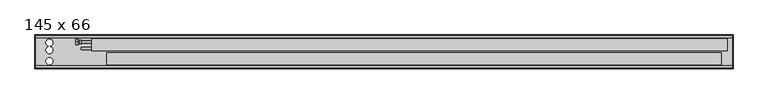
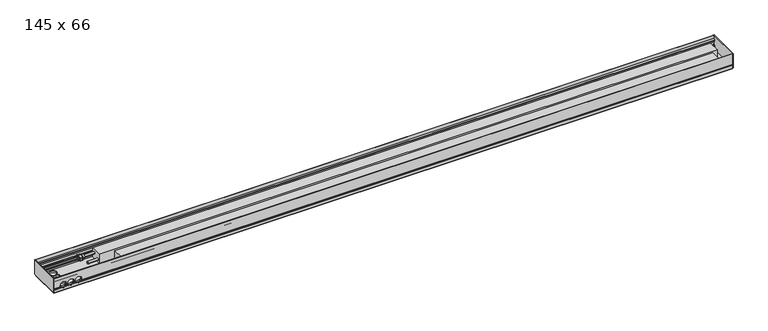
"""IFC4 building model written with IfcOpenShell, lengths in millimetres: proxy geometry, Mohlenhof_Внутрипольный конвектор_QSKM : 145 x 66."""

from ifc_helpers import new_model, si_unit, point, frame, frame_2d, origin, place, context, project, spatial, polyline, circle_curve, ellipse_curve, trimmed, segment, composite_curve, outline, extrude, source, transform, mapped, element, save
from ifc_brep_helpers import plane_surface, cylinder_surface, revolved_surface, advanced_brep


def proxy_145_x_66_a9dd490d(model_context):
    return source(origin(), model_context, "Body", "SolidModel", [
        advanced_brep(
        [(-1313.5, -130.0, -34.5), (-1313.5, -118.0, -34.5), (-1313.5, -142.0, -34.5), (-1301.0, -137.5, -34.5), (-1301.0, -122.5, -34.5), (-1301.0, -130.0, -34.5), (-1308.5, -137.5, -34.5), (-1308.5, -122.5, -34.5)],
        [
            (0, 1),
            (1, 2, circle_curve(frame((-1313.5, -130.0, -34.5), z_axis=(-1.0, 0.0, 0.0), x_axis=(0.0, 1.0, 0.0)), 12.0)),
            (2, 0),
            (2, 1, circle_curve(frame((-1313.5, -130.0, -34.5), z_axis=(-1.0, 0.0, 0.0), x_axis=(0.0, 1.0, 0.0)), 12.0)),
            (3, 4, circle_curve(frame((-1301.0, -130.0, -34.5), z_axis=(1.0, 0.0, 0.0), x_axis=(0.0, 1.0, 0.0)), 7.5)),
            (4, 5),
            (5, 3),
            (4, 3, circle_curve(frame((-1301.0, -130.0, -34.5), z_axis=(1.0, 0.0, 0.0), x_axis=(0.0, 1.0, 0.0)), 7.5)),
            (6, 7, circle_curve(frame((-1308.5, -130.0, -34.5), z_axis=(1.0, 0.0, 0.0), x_axis=(0.0, 1.0, 0.0)), 7.5)),
            (7, 4),
            (3, 6),
            (7, 6, circle_curve(frame((-1308.5, -130.0, -34.5), z_axis=(1.0, 0.0, 0.0), x_axis=(0.0, 1.0, 0.0)), 7.5)),
            (1, 7),
            (6, 2),
        ],
        [
            plane_surface(frame((-1313.5, -130.0, -34.5), z_axis=(-1.0, 0.0, 0.0), x_axis=(0.0, 1.0, 0.0))),
            plane_surface(frame((-1301.0, -130.0, -34.5), z_axis=(1.0, 0.0, 0.0), x_axis=(0.0, 1.0, 0.0))),
            cylinder_surface(frame((-1313.5, -130.0, -34.5), z_axis=(-1.0, 0.0, 0.0), x_axis=(0.0, 1.0, 0.0)), 7.5),
            revolved_surface(polyline([(-1308.5, -122.5, -34.5), (-1313.5, -118.0, -34.5)]), (-1313.5, -130.0, -34.5), (-1.0, 0.0, 0.0)),
        ],
        [
            (0, [[1, 2, 3]]),
            (0, [[-3, 4, -1]]),
            (1, [[5, 6, 7]]),
            (1, [[8, -7, -6]]),
            (2, [[9, 10, -5, 11]]),
            (2, [[12, -11, -8, -10]]),
            (3, [[-2, 13, -9, 14]]),
            (3, [[-4, -14, -12, -13]]),
        ],
    ),
        extrude(outline(polyline([(-130.0, -20.6435935), (-118.0, -27.5717968), (-118.0, -41.4282032), (-130.0, -48.3564065), (-142.0, -41.4282032), (-142.0, -27.5717968), (-130.0, -20.6435935)]), holes=[composite_curve([segment(trimmed(circle_curve(frame_2d((-130.0, -34.5)), 8.5), [point((-121.5, -34.5))], [point((-138.5, -34.5))], True, "CARTESIAN"), True, "CONTINUOUS"), segment(trimmed(circle_curve(frame_2d((-130.0, -34.5)), 8.5), [point((-138.5, -34.5))], [point((-121.5, -34.5))], True, "CARTESIAN"), True, "CONTINUOUS")], self_intersect=False)]), frame((-1324.5, 0.0, 0.0), z_axis=(1.0, 0.0, 0.0), x_axis=(0.0, 1.0, 0.0)), (0.0, 0.0, 1.0), 11.0),
        extrude(outline(composite_curve([segment(trimmed(circle_curve(frame_2d((-1474.5, -223.5)), 4.5), [point((-1479.0, -223.5))], [point((-1470.0, -223.5))], False, "CARTESIAN"), True, "CONTINUOUS"), segment(trimmed(circle_curve(frame_2d((-1474.5, -223.5)), 4.5), [point((-1470.0, -223.5))], [point((-1479.0, -223.5))], False, "CARTESIAN"), True, "CONTINUOUS")], self_intersect=False)), frame((0.0, 0.0, -79.0), z_axis=(0.0, 0.0, 1.0), x_axis=(1.0, 0.0, 0.0)), (0.0, 0.0, 1.0), 7.0),
        extrude(outline(composite_curve([segment(trimmed(circle_curve(frame_2d((-1474.5, -223.5)), 4.0), [point((-1478.5, -223.5))], [point((-1470.5, -223.5))], False, "CARTESIAN"), True, "CONTINUOUS"), segment(trimmed(circle_curve(frame_2d((-1474.5, -223.5)), 4.0), [point((-1470.5, -223.5))], [point((-1478.5, -223.5))], False, "CARTESIAN"), True, "CONTINUOUS")], self_intersect=False)), frame((0.0, 0.0, -72.0), z_axis=(0.0, 0.0, 1.0), x_axis=(1.0, 0.0, 0.0)), (0.0, 0.0, 1.0), 1.5),
        extrude(outline(composite_curve([segment(trimmed(circle_curve(frame_2d((-1474.5, -121.5)), 4.5), [point((-1479.0, -121.5))], [point((-1470.0, -121.5))], False, "CARTESIAN"), True, "CONTINUOUS"), segment(trimmed(circle_curve(frame_2d((-1474.5, -121.5)), 4.5), [point((-1470.0, -121.5))], [point((-1479.0, -121.5))], False, "CARTESIAN"), True, "CONTINUOUS")], self_intersect=False)), frame((0.0, 0.0, -79.0), z_axis=(0.0, 0.0, 1.0), x_axis=(1.0, 0.0, 0.0)), (0.0, 0.0, 1.0), 7.0),
        extrude(outline(composite_curve([segment(trimmed(circle_curve(frame_2d((-1474.5, -121.5)), 4.0), [point((-1478.5, -121.5))], [point((-1470.5, -121.5))], False, "CARTESIAN"), True, "CONTINUOUS"), segment(trimmed(circle_curve(frame_2d((-1474.5, -121.5)), 4.0), [point((-1470.5, -121.5))], [point((-1478.5, -121.5))], False, "CARTESIAN"), True, "CONTINUOUS")], self_intersect=False)), frame((0.0, 0.0, -72.0), z_axis=(0.0, 0.0, 1.0), x_axis=(1.0, 0.0, 0.0)), (0.0, 0.0, 1.0), 1.5),
        extrude(outline(composite_curve([segment(trimmed(circle_curve(frame_2d((1474.5, -223.5)), 4.5), [point((1470.0, -223.5))], [point((1479.0, -223.5))], False, "CARTESIAN"), True, "CONTINUOUS"), segment(trimmed(circle_curve(frame_2d((1474.5, -223.5)), 4.5), [point((1479.0, -223.5))], [point((1470.0, -223.5))], False, "CARTESIAN"), True, "CONTINUOUS")], self_intersect=False)), frame((0.0, 0.0, -79.0), z_axis=(0.0, 0.0, 1.0), x_axis=(1.0, 0.0, 0.0)), (0.0, 0.0, 1.0), 7.0),
        extrude(outline(composite_curve([segment(trimmed(circle_curve(frame_2d((1474.5, -223.5)), 4.0), [point((1470.5, -223.5))], [point((1478.5, -223.5))], False, "CARTESIAN"), True, "CONTINUOUS"), segment(trimmed(circle_curve(frame_2d((1474.5, -223.5)), 4.0), [point((1478.5, -223.5))], [point((1470.5, -223.5))], False, "CARTESIAN"), True, "CONTINUOUS")], self_intersect=False)), frame((0.0, 0.0, -72.0), z_axis=(0.0, 0.0, 1.0), x_axis=(1.0, 0.0, 0.0)), (0.0, 0.0, 1.0), 1.5),
        extrude(outline(composite_curve([segment(trimmed(circle_curve(frame_2d((1474.5, -121.5)), 4.5), [point((1470.0, -121.5))], [point((1479.0, -121.5))], False, "CARTESIAN"), True, "CONTINUOUS"), segment(trimmed(circle_curve(frame_2d((1474.5, -121.5)), 4.5), [point((1479.0, -121.5))], [point((1470.0, -121.5))], False, "CARTESIAN"), True, "CONTINUOUS")], self_intersect=False)), frame((0.0, 0.0, -79.0), z_axis=(0.0, 0.0, 1.0), x_axis=(1.0, 0.0, 0.0)), (0.0, 0.0, 1.0), 7.0),
        extrude(outline(composite_curve([segment(trimmed(circle_curve(frame_2d((1474.5, -121.5)), 4.0), [point((1470.5, -121.5))], [point((1478.5, -121.5))], False, "CARTESIAN"), True, "CONTINUOUS"), segment(trimmed(circle_curve(frame_2d((1474.5, -121.5)), 4.0), [point((1478.5, -121.5))], [point((1470.5, -121.5))], False, "CARTESIAN"), True, "CONTINUOUS")], self_intersect=False)), frame((0.0, 0.0, -72.0), z_axis=(0.0, 0.0, 1.0), x_axis=(1.0, 0.0, 0.0)), (0.0, 0.0, 1.0), 1.5),
        extrude(outline(polyline([(1449.5, -175.87), (1449.5, -227.18), (-1190.5, -227.18), (-1190.5, -175.87), (1449.5, -175.87)])), frame((0.0, 0.0, -62.5), z_axis=(0.0, 0.0, 1.0), x_axis=(1.0, 0.0, 0.0)), (0.0, 0.0, 1.0), 43.62),
        extrude(outline(composite_curve([segment(trimmed(circle_curve(frame_2d((-158.0, -47.5)), 5.0), [point((-163.0, -47.5))], [point((-153.0, -47.5))], False, "CARTESIAN"), True, "CONTINUOUS"), segment(trimmed(circle_curve(frame_2d((-158.0, -47.5)), 5.0), [point((-153.0, -47.5))], [point((-163.0, -47.5))], False, "CARTESIAN"), True, "CONTINUOUS")], self_intersect=False)), frame((-1300.5, 0.0, 0.0), z_axis=(1.0, 0.0, 0.0), x_axis=(0.0, 1.0, 0.0)), (0.0, 0.0, 1.0), 46.0),
        extrude(outline(composite_curve([segment(trimmed(circle_curve(frame_2d((-130.0, -34.5)), 5.0), [point((-135.0, -34.5))], [point((-125.0, -34.5))], False, "CARTESIAN"), True, "CONTINUOUS"), segment(trimmed(circle_curve(frame_2d((-130.0, -34.5)), 5.0), [point((-125.0, -34.5))], [point((-135.0, -34.5))], False, "CARTESIAN"), True, "CONTINUOUS")], self_intersect=False)), frame((-1324.5, 0.0, 0.0), z_axis=(1.0, 0.0, 0.0), x_axis=(0.0, 1.0, 0.0)), (0.0, 0.0, 1.0), 70.0),
        advanced_brep(
        [(1497.5, -245.0, -48.5473602), (1497.5, -243.5, -49.2468216), (1497.5, -242.5, -49.2468216), (1497.5, -242.5, -46.0008038), (1497.5, -240.0, -46.0008038), (1497.5, -240.0, -56.5008038), (1497.5, -242.5, -56.5008038), (1497.5, -242.5, -53.2468216), (1497.5, -243.5, -53.2468216), (1497.5, -245.0, -53.9462831), (1497.5, -245.0, -66.5), (1497.5, -241.0, -66.5), (1497.5, -241.0, -65.2), (1497.5, -243.0, -65.2), (1497.5, -243.0, -62.5), (1497.5, -232.0, -62.5), (1497.5, -232.0, -54.9172677), (1497.5, -233.4172677, -53.5), (1497.5, -237.0, -53.5), (1497.5, -237.0, -45.91), (1497.5, -239.0, -43.91), (1497.5, -239.0, -39.5), (1497.5, -240.0, -39.5), (1497.5, -240.0, -43.5), (1497.5, -242.4956439, -43.5), (1497.5, -242.4956439, -23.0), (1497.5, -240.0, -23.0), (1497.5, -240.0, -27.0), (1497.5, -239.0, -27.0), (1497.5, -239.0, -17.0), (1497.5, -233.3956439, -17.0), (1497.5, -233.3956439, -15.0), (1497.5, -243.4, -15.0), (1497.5, -243.4, 0.0), (1497.5, -245.0, 0.0), (-1497.5, -245.0, -48.5473602), (-1497.5, -245.0, 0.0), (-1497.5, -243.4, 0.0), (-1497.5, -243.4, -15.0), (-1497.5, -233.3956439, -15.0), (-1497.5, -233.3956439, -17.0), (-1497.5, -239.0, -17.0), (-1497.5, -239.0, -27.0), (-1497.5, -240.0, -27.0), (-1497.5, -240.0, -23.0), (-1497.5, -242.4956439, -23.0), (-1497.5, -242.4956439, -43.5), (-1497.5, -240.0, -43.5), (-1497.5, -240.0, -39.5), (-1497.5, -239.0, -39.5), (-1497.5, -239.0, -43.91), (-1497.5, -237.0, -45.91), (-1497.5, -237.0, -53.5), (-1497.5, -233.4172677, -53.5), (-1497.5, -232.0, -54.9172677), (-1497.5, -232.0, -62.5), (-1497.5, -243.0, -62.5), (-1497.5, -243.0, -65.2), (-1497.5, -241.0, -65.2), (-1497.5, -241.0, -66.5), (-1497.5, -245.0, -66.5), (-1497.5, -245.0, -53.9462831), (-1497.5, -243.5, -53.2468216), (-1497.5, -242.5, -53.2468216), (-1497.5, -242.5, -56.5008038), (-1497.5, -240.0, -56.5008038), (-1497.5, -240.0, -46.0008038), (-1497.5, -242.5, -46.0008038), (-1497.5, -242.5, -49.2468216), (-1497.5, -243.5, -49.2468216), (-1378.2585985, -245.0, -48.5473602), (-1378.655283, -243.5, -49.2468216), (-1470.344717, -243.5, -49.2468216), (-1470.7414015, -245.0, -48.5473602), (-1437.7414015, -245.0, -48.5473602), (-1444.2585985, -245.0, -48.5473602), (-1444.655283, -243.5, -49.2468216), (-1437.344717, -243.5, -49.2468216), (-1404.7414015, -245.0, -48.5473602), (-1411.2585985, -245.0, -48.5473602), (-1411.655283, -243.5, -49.2468216), (-1404.344717, -243.5, -49.2468216), (-1378.655283, -242.5, -49.2468216), (-1470.344717, -242.5, -49.2468216), (-1444.655283, -242.5, -49.2468216), (-1437.344717, -242.5, -49.2468216), (-1411.655283, -242.5, -49.2468216), (-1404.344717, -242.5, -49.2468216), (-1377.1911648, -242.5, -46.0008038), (-1471.8088352, -242.5, -46.0008038), (-1443.1911648, -242.5, -46.0008038), (-1438.8088352, -242.5, -46.0008038), (-1410.1911648, -242.5, -46.0008038), (-1405.8088352, -242.5, -46.0008038), (-1377.1911648, -240.0, -46.0008038), (-1471.8088352, -240.0, -46.0008038), (-1443.1911648, -240.0, -46.0008038), (-1438.8088352, -240.0, -46.0008038), (-1410.1911648, -240.0, -46.0008038), (-1405.8088352, -240.0, -46.0008038), (-1466.828032, -242.5, -53.2468216), (-1448.171968, -242.5, -53.2468216), (-1433.828032, -242.5, -53.2468216), (-1415.171968, -242.5, -53.2468216), (-1400.828032, -242.5, -53.2468216), (-1382.171968, -242.5, -53.2468216), (-1382.171968, -243.5, -53.2468216), (-1466.828032, -243.5, -53.2468216), (-1448.171968, -243.5, -53.2468216), (-1433.828032, -243.5, -53.2468216), (-1415.171968, -243.5, -53.2468216), (-1400.828032, -243.5, -53.2468216), (-1383.1280208, -245.0, -53.9462831), (-1465.8719792, -245.0, -53.9462831), (-1449.1280208, -245.0, -53.9462831), (-1432.8719792, -245.0, -53.9462831), (-1416.1280208, -245.0, -53.9462831), (-1399.8719792, -245.0, -53.9462831), (-1464.2064841, -232.0, -54.9172677), (-1450.7935159, -232.0, -54.9172677), (-1431.2064841, -232.0, -54.9172677), (-1417.7935159, -232.0, -54.9172677), (-1398.2064841, -232.0, -54.9172677), (-1384.7935159, -232.0, -54.9172677), (-1382.5, -233.4172677, -53.5), (-1466.5, -233.4172677, -53.5), (-1448.5, -233.4172677, -53.5), (-1433.5, -233.4172677, -53.5), (-1415.5, -233.4172677, -53.5), (-1400.5, -233.4172677, -53.5), (-1382.5, -237.0, -53.5), (-1466.5, -237.0, -53.5), (-1448.5, -237.0, -53.5), (-1433.5, -237.0, -53.5), (-1415.5, -237.0, -53.5), (-1400.5, -237.0, -53.5), (-1377.1629187, -237.0, -45.91), (-1471.8370813, -237.0, -45.91), (-1443.1629187, -237.0, -45.91), (-1438.8370813, -237.0, -45.91), (-1410.1629187, -237.0, -45.91), (-1405.8370813, -237.0, -45.91), (-1376.6948691, -239.0, -43.91), (-1472.3051309, -239.0, -43.91), (-1442.6948691, -239.0, -43.91), (-1439.3051309, -239.0, -43.91), (-1409.6948691, -239.0, -43.91), (-1406.3051309, -239.0, -43.91), (-1376.5, -239.0, -41.5), (-1376.6339313, -239.0, -39.5), (-1472.3660687, -239.0, -39.5), (-1472.5, -239.0, -41.5), (-1442.5, -239.0, -41.5), (-1442.6339313, -239.0, -39.5), (-1439.3660687, -239.0, -39.5), (-1439.5, -239.0, -41.5), (-1409.5, -239.0, -41.5), (-1409.6339313, -239.0, -39.5), (-1406.3660687, -239.0, -39.5), (-1406.5, -239.0, -41.5), (-1376.6339313, -240.0, -39.5), (-1472.3660687, -240.0, -39.5), (-1442.6339313, -240.0, -39.5), (-1439.3660687, -240.0, -39.5), (-1409.6339313, -240.0, -39.5), (-1406.3660687, -240.0, -39.5), (-1376.5, -240.0, -41.5), (-1376.6339313, -240.0, -43.5), (-1472.3660687, -240.0, -43.5), (-1472.5, -240.0, -41.5), (-1442.5, -240.0, -41.5), (-1442.6339313, -240.0, -43.5), (-1439.3660687, -240.0, -43.5), (-1439.5, -240.0, -41.5), (-1409.5, -240.0, -41.5), (-1409.6339313, -240.0, -43.5), (-1406.3660687, -240.0, -43.5), (-1406.5, -240.0, -41.5), (-1376.6339313, -242.4956439, -43.5), (-1472.3660687, -242.4956439, -43.5), (-1442.6339313, -242.4956439, -43.5), (-1439.3660687, -242.4956439, -43.5), (-1409.6339313, -242.4956439, -43.5), (-1406.3660687, -242.4956439, -43.5), (-1376.5, -242.4956439, -41.5), (-1406.5, -242.4956439, -41.5), (-1409.5, -242.4956439, -41.5), (-1439.5, -242.4956439, -41.5), (-1442.5, -242.4956439, -41.5), (-1472.5, -242.4956439, -41.5), (-1461.3405729, -240.0, -27.0), (-1453.6594271, -240.0, -27.0), (-1428.3405729, -240.0, -27.0), (-1420.6594271, -240.0, -27.0), (-1395.3405729, -240.0, -27.0), (-1387.6594271, -240.0, -27.0), (-1387.6594271, -239.0, -27.0), (-1461.3405729, -239.0, -27.0), (-1453.6594271, -239.0, -27.0), (-1428.3405729, -239.0, -27.0), (-1420.6594271, -239.0, -27.0), (-1395.3405729, -239.0, -27.0), (-1472.5, -245.0, -41.5), (-1442.5, -245.0, -41.5), (-1439.5, -245.0, -41.5), (-1409.5, -245.0, -41.5), (-1406.5, -245.0, -41.5), (-1376.5, -245.0, -41.5)],
        [
            (0, 1),
            (1, 2),
            (2, 3),
            (3, 4),
            (4, 5),
            (5, 6),
            (6, 7),
            (7, 8),
            (8, 9),
            (9, 10),
            (10, 11),
            (11, 12),
            (12, 13),
            (13, 14),
            (14, 15),
            (15, 16),
            (16, 17),
            (17, 18),
            (18, 19),
            (19, 20),
            (20, 21),
            (21, 22),
            (22, 23),
            (23, 24),
            (24, 25),
            (25, 26),
            (26, 27),
            (27, 28),
            (28, 29),
            (29, 30),
            (30, 31),
            (31, 32),
            (32, 33),
            (33, 34),
            (34, 0),
            (35, 36),
            (36, 37),
            (37, 38),
            (38, 39),
            (39, 40),
            (40, 41),
            (41, 42),
            (42, 43),
            (43, 44),
            (44, 45),
            (45, 46),
            (46, 47),
            (47, 48),
            (48, 49),
            (49, 50),
            (50, 51),
            (51, 52),
            (52, 53),
            (53, 54),
            (54, 55),
            (55, 56),
            (56, 57),
            (57, 58),
            (58, 59),
            (59, 60),
            (60, 61),
            (61, 62),
            (62, 63),
            (63, 64),
            (64, 65),
            (65, 66),
            (66, 67),
            (67, 68),
            (68, 69),
            (69, 35),
            (0, 70),
            (70, 71, ellipse_curve(frame((-1391.5, -260.1131126, -41.5), z_axis=(0.0, 0.42261826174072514, 0.9063077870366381), x_axis=(0.0, -0.9063077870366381, 0.42261826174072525)), 35.4930237, 15.0)),
            (71, 1),
            (69, 72),
            (72, 73, ellipse_curve(frame((-1457.5, -260.1131126, -41.5), z_axis=(0.0, 0.42261826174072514, 0.9063077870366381), x_axis=(0.0, -0.9063077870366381, 0.42261826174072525)), 35.4930237, 15.0)),
            (73, 35),
            (74, 75),
            (75, 76, ellipse_curve(frame((-1457.5, -260.1131126, -41.5), z_axis=(0.0, 0.42261826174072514, 0.9063077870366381), x_axis=(0.0, -0.9063077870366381, 0.42261826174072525)), 35.4930237, 15.0)),
            (76, 77),
            (77, 74, ellipse_curve(frame((-1424.5, -260.1131126, -41.5), z_axis=(0.0, 0.42261826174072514, 0.9063077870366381), x_axis=(0.0, -0.9063077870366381, 0.42261826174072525)), 35.4930237, 15.0)),
            (78, 79),
            (79, 80, ellipse_curve(frame((-1424.5, -260.1131126, -41.5), z_axis=(0.0, 0.42261826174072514, 0.9063077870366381), x_axis=(0.0, -0.9063077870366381, 0.42261826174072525)), 35.4930237, 15.0)),
            (80, 81),
            (81, 78, ellipse_curve(frame((-1391.5, -260.1131126, -41.5), z_axis=(0.0, 0.42261826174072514, 0.9063077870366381), x_axis=(0.0, -0.9063077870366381, 0.42261826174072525)), 35.4930237, 15.0)),
            (71, 82),
            (82, 2),
            (68, 83),
            (83, 72),
            (76, 84),
            (84, 85),
            (85, 77),
            (80, 86),
            (86, 87),
            (87, 81),
            (82, 88, circle_curve(frame((-1391.5, -242.5, -41.5), z_axis=(0.0, -1.0, 0.0), x_axis=(1.0, 0.0, 0.0)), 15.0)),
            (88, 3),
            (67, 89),
            (89, 83, circle_curve(frame((-1457.5, -242.5, -41.5), z_axis=(0.0, -1.0, 0.0), x_axis=(1.0, 0.0, 0.0)), 15.0)),
            (84, 90, circle_curve(frame((-1457.5, -242.5, -41.5), z_axis=(0.0, -1.0, 0.0), x_axis=(1.0, 0.0, 0.0)), 15.0)),
            (90, 91),
            (91, 85, circle_curve(frame((-1424.5, -242.5, -41.5), z_axis=(0.0, -1.0, 0.0), x_axis=(1.0, 0.0, 0.0)), 15.0)),
            (86, 92, circle_curve(frame((-1424.5, -242.5, -41.5), z_axis=(0.0, -1.0, 0.0), x_axis=(1.0, 0.0, 0.0)), 15.0)),
            (92, 93),
            (93, 87, circle_curve(frame((-1391.5, -242.5, -41.5), z_axis=(0.0, -1.0, 0.0), x_axis=(1.0, 0.0, 0.0)), 15.0)),
            (88, 94),
            (94, 4),
            (66, 95),
            (95, 89),
            (90, 96),
            (96, 97),
            (97, 91),
            (92, 98),
            (98, 99),
            (99, 93),
            (94, 99, circle_curve(frame((-1391.5, -240.0, -41.5), z_axis=(0.0, 1.0, 0.0), x_axis=(1.0, 0.0, 0.0)), 15.0)),
            (98, 97, circle_curve(frame((-1424.5, -240.0, -41.5), z_axis=(0.0, 1.0, 0.0), x_axis=(1.0, 0.0, 0.0)), 15.0)),
            (96, 95, circle_curve(frame((-1457.5, -240.0, -41.5), z_axis=(0.0, 1.0, 0.0), x_axis=(1.0, 0.0, 0.0)), 15.0)),
            (65, 5),
            (64, 6),
            (63, 100),
            (100, 101, circle_curve(frame((-1457.5, -242.5, -41.5), z_axis=(0.0, -1.0, 0.0), x_axis=(1.0, 0.0, 0.0)), 15.0)),
            (101, 102),
            (102, 103, circle_curve(frame((-1424.5, -242.5, -41.5), z_axis=(0.0, -1.0, 0.0), x_axis=(1.0, 0.0, 0.0)), 15.0)),
            (103, 104),
            (104, 105, circle_curve(frame((-1391.5, -242.5, -41.5), z_axis=(0.0, -1.0, 0.0), x_axis=(1.0, 0.0, 0.0)), 15.0)),
            (105, 7),
            (105, 106),
            (106, 8),
            (62, 107),
            (107, 100),
            (101, 108),
            (108, 109),
            (109, 102),
            (103, 110),
            (110, 111),
            (111, 104),
            (106, 112, ellipse_curve(frame((-1391.5, -218.3088597, -41.5), z_axis=(0.0, 0.42261826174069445, -0.9063077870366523), x_axis=(0.0, -0.9063077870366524, -0.42261826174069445)), 35.4930237, 15.0)),
            (112, 9),
            (61, 113),
            (113, 107, ellipse_curve(frame((-1457.5, -218.3088597, -41.5), z_axis=(0.0, 0.42261826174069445, -0.9063077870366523), x_axis=(0.0, -0.9063077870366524, -0.42261826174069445)), 35.4930237, 15.0)),
            (108, 114, ellipse_curve(frame((-1457.5, -218.3088597, -41.5), z_axis=(0.0, 0.42261826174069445, -0.9063077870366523), x_axis=(0.0, -0.9063077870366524, -0.42261826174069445)), 35.4930237, 15.0)),
            (114, 115),
            (115, 109, ellipse_curve(frame((-1424.5, -218.3088597, -41.5), z_axis=(0.0, 0.42261826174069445, -0.9063077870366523), x_axis=(0.0, -0.9063077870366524, -0.42261826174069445)), 35.4930237, 15.0)),
            (110, 116, ellipse_curve(frame((-1424.5, -218.3088597, -41.5), z_axis=(0.0, 0.42261826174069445, -0.9063077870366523), x_axis=(0.0, -0.9063077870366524, -0.42261826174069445)), 35.4930237, 15.0)),
            (116, 117),
            (117, 111, ellipse_curve(frame((-1391.5, -218.3088597, -41.5), z_axis=(0.0, 0.42261826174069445, -0.9063077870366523), x_axis=(0.0, -0.9063077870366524, -0.42261826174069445)), 35.4930237, 15.0)),
            (112, 117, circle_curve(frame((-1391.5, -245.0, -41.5), z_axis=(0.0, 1.0, 0.0), x_axis=(1.0, 0.0, 0.0)), 15.0)),
            (116, 115, circle_curve(frame((-1424.5, -245.0, -41.5), z_axis=(0.0, 1.0, 0.0), x_axis=(1.0, 0.0, 0.0)), 15.0)),
            (114, 113, circle_curve(frame((-1457.5, -245.0, -41.5), z_axis=(0.0, 1.0, 0.0), x_axis=(1.0, 0.0, 0.0)), 15.0)),
            (60, 10),
            (59, 11),
            (58, 12),
            (57, 13),
            (56, 14),
            (55, 15),
            (54, 118),
            (118, 119, circle_curve(frame((-1457.5, -232.0, -41.5), z_axis=(0.0, -1.0, 0.0), x_axis=(1.0, 0.0, 0.0)), 15.0)),
            (119, 120),
            (120, 121, circle_curve(frame((-1424.5, -232.0, -41.5), z_axis=(0.0, -1.0, 0.0), x_axis=(1.0, 0.0, 0.0)), 15.0)),
            (121, 122),
            (122, 123, circle_curve(frame((-1391.5, -232.0, -41.5), z_axis=(0.0, -1.0, 0.0), x_axis=(1.0, 0.0, 0.0)), 15.0)),
            (123, 16),
            (123, 124, ellipse_curve(frame((-1391.5, -245.4172677, -41.5), z_axis=(0.0, -0.7071067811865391, -0.707106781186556), x_axis=(0.0, -0.7071067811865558, 0.7071067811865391)), 21.2132034, 15.0)),
            (124, 17),
            (53, 125),
            (125, 118, ellipse_curve(frame((-1457.5, -245.4172677, -41.5), z_axis=(0.0, -0.7071067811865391, -0.707106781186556), x_axis=(0.0, -0.7071067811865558, 0.7071067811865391)), 21.2132034, 15.0)),
            (119, 126, ellipse_curve(frame((-1457.5, -245.4172677, -41.5), z_axis=(0.0, -0.7071067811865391, -0.707106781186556), x_axis=(0.0, -0.7071067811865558, 0.7071067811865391)), 21.2132034, 15.0)),
            (126, 127),
            (127, 120, ellipse_curve(frame((-1424.5, -245.4172677, -41.5), z_axis=(0.0, -0.7071067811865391, -0.707106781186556), x_axis=(0.0, -0.7071067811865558, 0.7071067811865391)), 21.2132034, 15.0)),
            (121, 128, ellipse_curve(frame((-1424.5, -245.4172677, -41.5), z_axis=(0.0, -0.7071067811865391, -0.707106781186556), x_axis=(0.0, -0.7071067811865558, 0.7071067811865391)), 21.2132034, 15.0)),
            (128, 129),
            (129, 122, ellipse_curve(frame((-1391.5, -245.4172677, -41.5), z_axis=(0.0, -0.7071067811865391, -0.707106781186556), x_axis=(0.0, -0.7071067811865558, 0.7071067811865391)), 21.2132034, 15.0)),
            (124, 130),
            (130, 18),
            (52, 131),
            (131, 125),
            (126, 132),
            (132, 133),
            (133, 127),
            (128, 134),
            (134, 135),
            (135, 129),
            (130, 136, circle_curve(frame((-1391.5, -237.0, -41.5), z_axis=(0.0, -1.0, 0.0), x_axis=(1.0, 0.0, 0.0)), 15.0)),
            (136, 19),
            (51, 137),
            (137, 131, circle_curve(frame((-1457.5, -237.0, -41.5), z_axis=(0.0, -1.0, 0.0), x_axis=(1.0, 0.0, 0.0)), 15.0)),
            (132, 138, circle_curve(frame((-1457.5, -237.0, -41.5), z_axis=(0.0, -1.0, 0.0), x_axis=(1.0, 0.0, 0.0)), 15.0)),
            (138, 139),
            (139, 133, circle_curve(frame((-1424.5, -237.0, -41.5), z_axis=(0.0, -1.0, 0.0), x_axis=(1.0, 0.0, 0.0)), 15.0)),
            (134, 140, circle_curve(frame((-1424.5, -237.0, -41.5), z_axis=(0.0, -1.0, 0.0), x_axis=(1.0, 0.0, 0.0)), 15.0)),
            (140, 141),
            (141, 135, circle_curve(frame((-1391.5, -237.0, -41.5), z_axis=(0.0, -1.0, 0.0), x_axis=(1.0, 0.0, 0.0)), 15.0)),
            (136, 142, ellipse_curve(frame((-1391.5, -241.41, -41.5), z_axis=(0.0, -0.7071067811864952, -0.7071067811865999), x_axis=(0.0, -0.7071067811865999, 0.7071067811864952)), 21.2132034, 15.0)),
            (142, 20),
            (50, 143),
            (143, 137, ellipse_curve(frame((-1457.5, -241.41, -41.5), z_axis=(0.0, -0.7071067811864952, -0.7071067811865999), x_axis=(0.0, -0.7071067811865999, 0.7071067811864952)), 21.2132034, 15.0)),
            (138, 144, ellipse_curve(frame((-1457.5, -241.41, -41.5), z_axis=(0.0, -0.7071067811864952, -0.7071067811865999), x_axis=(0.0, -0.7071067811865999, 0.7071067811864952)), 21.2132034, 15.0)),
            (144, 145),
            (145, 139, ellipse_curve(frame((-1424.5, -241.41, -41.5), z_axis=(0.0, -0.7071067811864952, -0.7071067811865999), x_axis=(0.0, -0.7071067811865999, 0.7071067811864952)), 21.2132034, 15.0)),
            (140, 146, ellipse_curve(frame((-1424.5, -241.41, -41.5), z_axis=(0.0, -0.7071067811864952, -0.7071067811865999), x_axis=(0.0, -0.7071067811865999, 0.7071067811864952)), 21.2132034, 15.0)),
            (146, 147),
            (147, 141, ellipse_curve(frame((-1391.5, -241.41, -41.5), z_axis=(0.0, -0.7071067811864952, -0.7071067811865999), x_axis=(0.0, -0.7071067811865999, 0.7071067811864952)), 21.2132034, 15.0)),
            (142, 148, circle_curve(frame((-1391.5, -239.0, -41.5), z_axis=(0.0, -1.0, 0.0), x_axis=(1.0, 0.0, 0.0)), 15.0)),
            (148, 149, circle_curve(frame((-1391.5, -239.0, -41.5), z_axis=(0.0, -1.0, 0.0), x_axis=(1.0, 0.0, 0.0)), 15.0)),
            (149, 21),
            (49, 150),
            (150, 151, circle_curve(frame((-1457.5, -239.0, -41.5), z_axis=(0.0, -1.0, 0.0), x_axis=(1.0, 0.0, 0.0)), 15.0)),
            (151, 143, circle_curve(frame((-1457.5, -239.0, -41.5), z_axis=(0.0, -1.0, 0.0), x_axis=(1.0, 0.0, 0.0)), 15.0)),
            (144, 152, circle_curve(frame((-1457.5, -239.0, -41.5), z_axis=(0.0, -1.0, 0.0), x_axis=(1.0, 0.0, 0.0)), 15.0)),
            (152, 153, circle_curve(frame((-1457.5, -239.0, -41.5), z_axis=(0.0, -1.0, 0.0), x_axis=(1.0, 0.0, 0.0)), 15.0)),
            (153, 154),
            (154, 155, circle_curve(frame((-1424.5, -239.0, -41.5), z_axis=(0.0, -1.0, 0.0), x_axis=(1.0, 0.0, 0.0)), 15.0)),
            (155, 145, circle_curve(frame((-1424.5, -239.0, -41.5), z_axis=(0.0, -1.0, 0.0), x_axis=(1.0, 0.0, 0.0)), 15.0)),
            (146, 156, circle_curve(frame((-1424.5, -239.0, -41.5), z_axis=(0.0, -1.0, 0.0), x_axis=(1.0, 0.0, 0.0)), 15.0)),
            (156, 157, circle_curve(frame((-1424.5, -239.0, -41.5), z_axis=(0.0, -1.0, 0.0), x_axis=(1.0, 0.0, 0.0)), 15.0)),
            (157, 158),
            (158, 159, circle_curve(frame((-1391.5, -239.0, -41.5), z_axis=(0.0, -1.0, 0.0), x_axis=(1.0, 0.0, 0.0)), 15.0)),
            (159, 147, circle_curve(frame((-1391.5, -239.0, -41.5), z_axis=(0.0, -1.0, 0.0), x_axis=(1.0, 0.0, 0.0)), 15.0)),
            (149, 160),
            (160, 22),
            (48, 161),
            (161, 150),
            (153, 162),
            (162, 163),
            (163, 154),
            (157, 164),
            (164, 165),
            (165, 158),
            (160, 166, circle_curve(frame((-1391.5, -240.0, -41.5), z_axis=(0.0, 1.0, 0.0), x_axis=(1.0, 0.0, 0.0)), 15.0)),
            (166, 167, circle_curve(frame((-1391.5, -240.0, -41.5), z_axis=(0.0, 1.0, 0.0), x_axis=(1.0, 0.0, 0.0)), 15.0)),
            (167, 23),
            (47, 168),
            (168, 169, circle_curve(frame((-1457.5, -240.0, -41.5), z_axis=(0.0, 1.0, 0.0), x_axis=(1.0, 0.0, 0.0)), 15.0)),
            (169, 161, circle_curve(frame((-1457.5, -240.0, -41.5), z_axis=(0.0, 1.0, 0.0), x_axis=(1.0, 0.0, 0.0)), 15.0)),
            (162, 170, circle_curve(frame((-1457.5, -240.0, -41.5), z_axis=(0.0, 1.0, 0.0), x_axis=(1.0, 0.0, 0.0)), 15.0)),
            (170, 171, circle_curve(frame((-1457.5, -240.0, -41.5), z_axis=(0.0, 1.0, 0.0), x_axis=(1.0, 0.0, 0.0)), 15.0)),
            (171, 172),
            (172, 173, circle_curve(frame((-1424.5, -240.0, -41.5), z_axis=(0.0, 1.0, 0.0), x_axis=(1.0, 0.0, 0.0)), 15.0)),
            (173, 163, circle_curve(frame((-1424.5, -240.0, -41.5), z_axis=(0.0, 1.0, 0.0), x_axis=(1.0, 0.0, 0.0)), 15.0)),
            (164, 174, circle_curve(frame((-1424.5, -240.0, -41.5), z_axis=(0.0, 1.0, 0.0), x_axis=(1.0, 0.0, 0.0)), 15.0)),
            (174, 175, circle_curve(frame((-1424.5, -240.0, -41.5), z_axis=(0.0, 1.0, 0.0), x_axis=(1.0, 0.0, 0.0)), 15.0)),
            (175, 176),
            (176, 177, circle_curve(frame((-1391.5, -240.0, -41.5), z_axis=(0.0, 1.0, 0.0), x_axis=(1.0, 0.0, 0.0)), 15.0)),
            (177, 165, circle_curve(frame((-1391.5, -240.0, -41.5), z_axis=(0.0, 1.0, 0.0), x_axis=(1.0, 0.0, 0.0)), 15.0)),
            (167, 178),
            (178, 24),
            (46, 179),
            (179, 168),
            (171, 180),
            (180, 181),
            (181, 172),
            (175, 182),
            (182, 183),
            (183, 176),
            (178, 184, circle_curve(frame((-1391.5, -242.4956439, -41.5), z_axis=(0.0, -1.0, 0.0), x_axis=(1.0, 0.0, 0.0)), 15.0)),
            (184, 185, circle_curve(frame((-1391.5, -242.4956439, -41.5), z_axis=(0.0, -1.0, 0.0), x_axis=(1.0, 0.0, 0.0)), 15.0)),
            (185, 183, circle_curve(frame((-1391.5, -242.4956439, -41.5), z_axis=(0.0, -1.0, 0.0), x_axis=(1.0, 0.0, 0.0)), 15.0)),
            (182, 186, circle_curve(frame((-1424.5, -242.4956439, -41.5), z_axis=(0.0, -1.0, 0.0), x_axis=(1.0, 0.0, 0.0)), 15.0)),
            (186, 187, circle_curve(frame((-1424.5, -242.4956439, -41.5), z_axis=(0.0, -1.0, 0.0), x_axis=(1.0, 0.0, 0.0)), 15.0)),
            (187, 181, circle_curve(frame((-1424.5, -242.4956439, -41.5), z_axis=(0.0, -1.0, 0.0), x_axis=(1.0, 0.0, 0.0)), 15.0)),
            (180, 188, circle_curve(frame((-1457.5, -242.4956439, -41.5), z_axis=(0.0, -1.0, 0.0), x_axis=(1.0, 0.0, 0.0)), 15.0)),
            (188, 189, circle_curve(frame((-1457.5, -242.4956439, -41.5), z_axis=(0.0, -1.0, 0.0), x_axis=(1.0, 0.0, 0.0)), 15.0)),
            (189, 179, circle_curve(frame((-1457.5, -242.4956439, -41.5), z_axis=(0.0, -1.0, 0.0), x_axis=(1.0, 0.0, 0.0)), 15.0)),
            (45, 25),
            (44, 26),
            (43, 190),
            (190, 191, circle_curve(frame((-1457.5, -240.0, -41.5), z_axis=(0.0, 1.0, 0.0), x_axis=(1.0, 0.0, 0.0)), 15.0)),
            (191, 192),
            (192, 193, circle_curve(frame((-1424.5, -240.0, -41.5), z_axis=(0.0, 1.0, 0.0), x_axis=(1.0, 0.0, 0.0)), 15.0)),
            (193, 194),
            (194, 195, circle_curve(frame((-1391.5, -240.0, -41.5), z_axis=(0.0, 1.0, 0.0), x_axis=(1.0, 0.0, 0.0)), 15.0)),
            (195, 27),
            (195, 196),
            (196, 28),
            (42, 197),
            (197, 190),
            (191, 198),
            (198, 199),
            (199, 192),
            (193, 200),
            (200, 201),
            (201, 194),
            (196, 201, circle_curve(frame((-1391.5, -239.0, -41.5), z_axis=(0.0, -1.0, 0.0), x_axis=(1.0, 0.0, 0.0)), 15.0)),
            (200, 199, circle_curve(frame((-1424.5, -239.0, -41.5), z_axis=(0.0, -1.0, 0.0), x_axis=(1.0, 0.0, 0.0)), 15.0)),
            (198, 197, circle_curve(frame((-1457.5, -239.0, -41.5), z_axis=(0.0, -1.0, 0.0), x_axis=(1.0, 0.0, 0.0)), 15.0)),
            (41, 29),
            (40, 30),
            (39, 31),
            (38, 32),
            (37, 33),
            (36, 34),
            (73, 202, circle_curve(frame((-1457.5, -245.0, -41.5), z_axis=(0.0, 1.0, 0.0), x_axis=(1.0, 0.0, 0.0)), 15.0)),
            (202, 203, circle_curve(frame((-1457.5, -245.0, -41.5), z_axis=(0.0, 1.0, 0.0), x_axis=(1.0, 0.0, 0.0)), 15.0)),
            (203, 75, circle_curve(frame((-1457.5, -245.0, -41.5), z_axis=(0.0, 1.0, 0.0), x_axis=(1.0, 0.0, 0.0)), 15.0)),
            (74, 204, circle_curve(frame((-1424.5, -245.0, -41.5), z_axis=(0.0, 1.0, 0.0), x_axis=(1.0, 0.0, 0.0)), 15.0)),
            (204, 205, circle_curve(frame((-1424.5, -245.0, -41.5), z_axis=(0.0, 1.0, 0.0), x_axis=(1.0, 0.0, 0.0)), 15.0)),
            (205, 79, circle_curve(frame((-1424.5, -245.0, -41.5), z_axis=(0.0, 1.0, 0.0), x_axis=(1.0, 0.0, 0.0)), 15.0)),
            (78, 206, circle_curve(frame((-1391.5, -245.0, -41.5), z_axis=(0.0, 1.0, 0.0), x_axis=(1.0, 0.0, 0.0)), 15.0)),
            (206, 207, circle_curve(frame((-1391.5, -245.0, -41.5), z_axis=(0.0, 1.0, 0.0), x_axis=(1.0, 0.0, 0.0)), 15.0)),
            (207, 70, circle_curve(frame((-1391.5, -245.0, -41.5), z_axis=(0.0, 1.0, 0.0), x_axis=(1.0, 0.0, 0.0)), 15.0)),
            (151, 169),
            (189, 202),
            (203, 188),
            (170, 152),
            (155, 173),
            (187, 204),
            (205, 186),
            (174, 156),
            (159, 177),
            (185, 206),
            (207, 184),
            (166, 148),
        ],
        [
            plane_surface(frame((1497.5, -243.0, -62.5), z_axis=(1.0, 0.0, 0.0), x_axis=(0.0, 0.0, 1.0))),
            plane_surface(frame((-1497.5, -243.0, -62.5), z_axis=(-1.0, 0.0, 0.0), x_axis=(0.0, 0.0, 1.0))),
            plane_surface(frame((1497.5, -245.0, -48.5473602), z_axis=(0.0, -0.42261826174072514, -0.9063077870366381), x_axis=(-1.0, 0.0, 0.0))),
            plane_surface(frame((1497.5, -243.5, -49.2468216), z_axis=(0.0, 0.0, -1.0), x_axis=(-1.0, 0.0, 0.0))),
            plane_surface(frame((1497.5, -242.5, -49.2468216), z_axis=(0.0, 1.0, 0.0), x_axis=(-1.0, 0.0, 0.0))),
            plane_surface(frame((1497.5, -242.5, -46.0008038), z_axis=(0.0, 0.0, -1.0), x_axis=(-1.0, 0.0, 0.0))),
            plane_surface(frame((1497.5, -240.0, -46.0008038), z_axis=(0.0, -1.0, 0.0), x_axis=(-1.0, 0.0, 0.0))),
            plane_surface(frame((1497.5, -240.0, -56.5008038), z_axis=(0.0, 0.0, 1.0), x_axis=(-1.0, 0.0, 0.0))),
            plane_surface(frame((1497.5, -242.5, -56.5008038), z_axis=(0.0, 1.0, 0.0), x_axis=(-1.0, 0.0, 0.0))),
            plane_surface(frame((1497.5, -242.5, -53.2468216), z_axis=(0.0, 0.0, 1.0), x_axis=(-1.0, 0.0, 0.0))),
            plane_surface(frame((1497.5, -243.5, -53.2468216), z_axis=(0.0, -0.42261826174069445, 0.9063077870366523), x_axis=(-1.0, 0.0, 0.0))),
            plane_surface(frame((1497.5, -245.0, -53.9462831), z_axis=(0.0, -1.0, 0.0), x_axis=(-1.0, 0.0, 0.0))),
            plane_surface(frame((1497.5, -245.0, -66.5), z_axis=(0.0, 0.0, -1.0), x_axis=(-1.0, 0.0, 0.0))),
            plane_surface(frame((1497.5, -241.0, -66.5), z_axis=(0.0, 1.0, 0.0), x_axis=(-1.0, 0.0, 0.0))),
            plane_surface(frame((1497.5, -241.0, -65.2), z_axis=(0.0, 0.0, 1.0), x_axis=(-1.0, 0.0, 0.0))),
            plane_surface(frame((1497.5, -243.0, -65.2), z_axis=(0.0, 1.0, 0.0), x_axis=(-1.0, 0.0, 0.0))),
            plane_surface(frame((1497.5, -243.0, -62.5), z_axis=(0.0, 0.0, -1.0), x_axis=(-1.0, 0.0, 0.0))),
            plane_surface(frame((1497.5, -232.0, -62.5), z_axis=(0.0, 1.0, 0.0), x_axis=(-1.0, 0.0, 0.0))),
            plane_surface(frame((1497.5, -232.0, -54.9172677), z_axis=(0.0, 0.7071067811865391, 0.707106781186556), x_axis=(-1.0, 0.0, 0.0))),
            plane_surface(frame((1497.5, -233.4172677, -53.5), z_axis=(0.0, 0.0, 1.0), x_axis=(-1.0, 0.0, 0.0))),
            plane_surface(frame((1497.5, -237.0, -53.5), z_axis=(0.0, 1.0, 0.0), x_axis=(-1.0, 0.0, 0.0))),
            plane_surface(frame((1497.5, -237.0, -45.91), z_axis=(0.0, 0.7071067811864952, 0.7071067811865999), x_axis=(-1.0, 0.0, 0.0))),
            plane_surface(frame((1497.5, -239.0, -43.91), z_axis=(0.0, 1.0, 0.0), x_axis=(-1.0, 0.0, 0.0))),
            plane_surface(frame((1497.5, -239.0, -39.5), z_axis=(0.0, 0.0, 1.0), x_axis=(-1.0, 0.0, 0.0))),
            plane_surface(frame((1497.5, -240.0, -39.5), z_axis=(0.0, -1.0, 0.0), x_axis=(-1.0, 0.0, 0.0))),
            plane_surface(frame((1497.5, -240.0, -43.5), z_axis=(0.0, 0.0, 1.0), x_axis=(-1.0, 0.0, 0.0))),
            plane_surface(frame((1497.5, -242.4956439, -43.5), z_axis=(0.0, 1.0, 0.0), x_axis=(-1.0, 0.0, 0.0))),
            plane_surface(frame((1497.5, -242.4956439, -23.0), z_axis=(0.0, 0.0, -1.0), x_axis=(-1.0, 0.0, 0.0))),
            plane_surface(frame((1497.5, -240.0, -23.0), z_axis=(0.0, -1.0, 0.0), x_axis=(-1.0, 0.0, 0.0))),
            plane_surface(frame((1497.5, -240.0, -27.0), z_axis=(0.0, 0.0, -1.0), x_axis=(-1.0, 0.0, 0.0))),
            plane_surface(frame((1497.5, -239.0, -27.0), z_axis=(0.0, 1.0, 0.0), x_axis=(-1.0, 0.0, 0.0))),
            plane_surface(frame((1497.5, -239.0, -17.0), z_axis=(0.0, 0.0, -1.0), x_axis=(-1.0, 0.0, 0.0))),
            plane_surface(frame((1497.5, -233.3956439, -17.0), z_axis=(0.0, 1.0, 0.0), x_axis=(-1.0, 0.0, 0.0))),
            plane_surface(frame((1497.5, -233.3956439, -15.0), z_axis=(0.0, 0.0, 1.0), x_axis=(-1.0, 0.0, 0.0))),
            plane_surface(frame((1497.5, -243.4, -15.0), z_axis=(0.0, 1.0, 0.0), x_axis=(-1.0, 0.0, 0.0))),
            plane_surface(frame((1497.5, -243.4, 0.0), z_axis=(0.0, 0.0, 1.0), x_axis=(-1.0, 0.0, 0.0))),
            plane_surface(frame((1497.5, -245.0, 0.0), z_axis=(0.0, -1.0, 0.0), x_axis=(-1.0, 0.0, 0.0))),
            revolved_surface(polyline([(-1442.5, -250.47646346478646, -41.5), (-1442.5, -186.14125593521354, -41.5)]), (-1457.5, -213.0, -41.5), (0.0, -1.0, 0.0)),
            revolved_surface(polyline([(-1442.5, -292.280716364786, -41.5), (-1442.5, -226.41000002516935, -41.5)]), (-1457.5, -213.0, -41.5), (0.0, -1.0, 0.0)),
            revolved_surface(polyline([(-1442.5, -240.0, -41.5), (-1442.5, -239.0, -41.5)]), (-1457.5, -213.0, -41.5), (0.0, -1.0, 0.0)),
            revolved_surface(polyline([(-1442.5, -245.0, -41.5), (-1442.5, -242.4956439, -41.5)]), (-1457.5, -213.0, -41.5), (0.0, -1.0, 0.0)),
            revolved_surface(polyline([(-1409.5, -250.47646346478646, -41.5), (-1409.5, -186.14125593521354, -41.5)]), (-1424.5, 0.0, -41.5), (0.0, -1.0, 0.0)),
            revolved_surface(polyline([(-1409.5, -292.280716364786, -41.5), (-1409.5, -226.41000002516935, -41.5)]), (-1424.5, 0.0, -41.5), (0.0, -1.0, 0.0)),
            revolved_surface(polyline([(-1409.5, -240.0, -41.5), (-1409.5, -239.0, -41.5)]), (-1424.5, 0.0, -41.5), (0.0, -1.0, 0.0)),
            revolved_surface(polyline([(-1409.5, -245.0, -41.5), (-1409.5, -242.4956439, -41.5)]), (-1424.5, 0.0, -41.5), (0.0, -1.0, 0.0)),
            revolved_surface(polyline([(-1376.5, -250.47646346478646, -41.5), (-1376.5, -186.14125593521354, -41.5)]), (-1391.5, 0.0, -41.5), (0.0, -1.0, 0.0)),
            revolved_surface(polyline([(-1376.5, -292.280716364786, -41.5), (-1376.5, -226.41000002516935, -41.5)]), (-1391.5, 0.0, -41.5), (0.0, -1.0, 0.0)),
            revolved_surface(polyline([(-1376.5, -240.0, -41.5), (-1376.5, -239.0, -41.5)]), (-1391.5, 0.0, -41.5), (0.0, -1.0, 0.0)),
            revolved_surface(polyline([(-1376.5, -245.0, -41.5), (-1376.5, -242.4956439, -41.5)]), (-1391.5, 0.0, -41.5), (0.0, -1.0, 0.0)),
        ],
        [
            (0, [[1, 2, 3, 4, 5, 6, 7, 8, 9, 10, 11, 12, 13, 14, 15, 16, 17, 18, 19, 20, 21, 22, 23, 24, 25, 26, 27, 28, 29, 30, 31, 32, 33, 34, 35]]),
            (1, [[36, 37, 38, 39, 40, 41, 42, 43, 44, 45, 46, 47, 48, 49, 50, 51, 52, 53, 54, 55, 56, 57, 58, 59, 60, 61, 62, 63, 64, 65, 66, 67, 68, 69, 70]]),
            (2, [[-1, 71, 72, 73]]),
            (2, [[-70, 74, 75, 76]]),
            (2, [[77, 78, 79, 80]]),
            (2, [[81, 82, 83, 84]]),
            (3, [[-2, -73, 85, 86]]),
            (3, [[-69, 87, 88, -74]]),
            (3, [[-79, 89, 90, 91]]),
            (3, [[-83, 92, 93, 94]]),
            (4, [[-3, -86, 95, 96]]),
            (4, [[-68, 97, 98, -87]]),
            (4, [[-90, 99, 100, 101]]),
            (4, [[-93, 102, 103, 104]]),
            (5, [[-4, -96, 105, 106]]),
            (5, [[-67, 107, 108, -97]]),
            (5, [[-100, 109, 110, 111]]),
            (5, [[-103, 112, 113, 114]]),
            (6, [[-5, -106, 115, -113, 116, -110, 117, -107, -66, 118]]),
            (7, [[-6, -118, -65, 119]]),
            (8, [[-7, -119, -64, 120, 121, 122, 123, 124, 125, 126]]),
            (9, [[-8, -126, 127, 128]]),
            (9, [[-63, 129, 130, -120]]),
            (9, [[-122, 131, 132, 133]]),
            (9, [[-124, 134, 135, 136]]),
            (10, [[-9, -128, 137, 138]]),
            (10, [[-62, 139, 140, -129]]),
            (10, [[-132, 141, 142, 143]]),
            (10, [[-135, 144, 145, 146]]),
            (11, [[-10, -138, 147, -145, 148, -142, 149, -139, -61, 150]]),
            (12, [[-11, -150, -60, 151]]),
            (13, [[-12, -151, -59, 152]]),
            (14, [[-13, -152, -58, 153]]),
            (15, [[-14, -153, -57, 154]]),
            (16, [[-15, -154, -56, 155]]),
            (17, [[-16, -155, -55, 156, 157, 158, 159, 160, 161, 162]]),
            (18, [[-17, -162, 163, 164]]),
            (18, [[-54, 165, 166, -156]]),
            (18, [[-158, 167, 168, 169]]),
            (18, [[-160, 170, 171, 172]]),
            (19, [[-18, -164, 173, 174]]),
            (19, [[-53, 175, 176, -165]]),
            (19, [[-168, 177, 178, 179]]),
            (19, [[-171, 180, 181, 182]]),
            (20, [[-19, -174, 183, 184]]),
            (20, [[-52, 185, 186, -175]]),
            (20, [[-178, 187, 188, 189]]),
            (20, [[-181, 190, 191, 192]]),
            (21, [[-20, -184, 193, 194]]),
            (21, [[-51, 195, 196, -185]]),
            (21, [[-188, 197, 198, 199]]),
            (21, [[-191, 200, 201, 202]]),
            (22, [[-21, -194, 203, 204, 205]]),
            (22, [[-50, 206, 207, 208, -195]]),
            (22, [[-198, 209, 210, 211, 212, 213]]),
            (22, [[-201, 214, 215, 216, 217, 218]]),
            (23, [[-22, -205, 219, 220]]),
            (23, [[-49, 221, 222, -206]]),
            (23, [[-211, 223, 224, 225]]),
            (23, [[-216, 226, 227, 228]]),
            (24, [[-23, -220, 229, 230, 231]]),
            (24, [[-48, 232, 233, 234, -221]]),
            (24, [[-224, 235, 236, 237, 238, 239]]),
            (24, [[-227, 240, 241, 242, 243, 244]]),
            (25, [[-24, -231, 245, 246]]),
            (25, [[-47, 247, 248, -232]]),
            (25, [[-237, 249, 250, 251]]),
            (25, [[-242, 252, 253, 254]]),
            (26, [[-25, -246, 255, 256, 257, -253, 258, 259, 260, -250, 261, 262, 263, -247, -46, 264]]),
            (27, [[-26, -264, -45, 265]]),
            (28, [[-27, -265, -44, 266, 267, 268, 269, 270, 271, 272]]),
            (29, [[-28, -272, 273, 274]]),
            (29, [[-43, 275, 276, -266]]),
            (29, [[-268, 277, 278, 279]]),
            (29, [[-270, 280, 281, 282]]),
            (30, [[-29, -274, 283, -281, 284, -278, 285, -275, -42, 286]]),
            (31, [[-30, -286, -41, 287]]),
            (32, [[-31, -287, -40, 288]]),
            (33, [[-32, -288, -39, 289]]),
            (34, [[-33, -289, -38, 290]]),
            (35, [[-34, -290, -37, 291]]),
            (36, [[-35, -291, -36, -76, 292, 293, 294, -77, 295, 296, 297, -81, 298, 299, 300, -71]]),
            (37, [[-121, -130, -140, -149, -141, -131]]),
            (38, [[301, -233, -248, -263, 302, -292, -75, -88, -98, -108, -117, -109, -99, -89, -78, -294, 303, -261, -249, -236, 304, -209, -197, -187, -177, -167, -157, -166, -176, -186, -196, -208]]),
            (39, [[-267, -276, -285, -277]]),
            (39, [[-301, -207, -222, -234]]),
            (40, [[-302, -262, -303, -293]]),
            (39, [[-304, -235, -223, -210]]),
            (41, [[-123, -133, -143, -148, -144, -134]]),
            (42, [[305, -238, -251, -260, 306, -295, -80, -91, -101, -111, -116, -112, -102, -92, -82, -297, 307, -258, -252, -241, 308, -214, -200, -190, -180, -170, -159, -169, -179, -189, -199, -213]]),
            (43, [[-269, -279, -284, -280]]),
            (43, [[-305, -212, -225, -239]]),
            (44, [[-306, -259, -307, -296]]),
            (43, [[-308, -240, -226, -215]]),
            (45, [[-125, -136, -146, -147, -137, -127]]),
            (46, [[309, -243, -254, -257, 310, -298, -84, -94, -104, -114, -115, -105, -95, -85, -72, -300, 311, -255, -245, -230, 312, -203, -193, -183, -173, -163, -161, -172, -182, -192, -202, -218]]),
            (47, [[-271, -282, -283, -273]]),
            (47, [[-309, -217, -228, -244]]),
            (48, [[-310, -256, -311, -299]]),
            (47, [[-312, -229, -219, -204]]),
        ],
    ),
        extrude(outline(polyline([(-100.0, -48.5473602), (-101.5, -49.2468216), (-102.5, -49.2468216), (-102.5, -46.0008038), (-105.0, -46.0008038), (-105.0, -56.5008038), (-102.5, -56.5008038), (-102.5, -53.2468216), (-101.5, -53.2468216), (-100.0, -53.9462831), (-100.0, -66.5), (-104.0, -66.5), (-104.0, -65.2), (-102.0, -65.2), (-102.0, -62.5), (-113.0, -62.5), (-113.0, -54.9172677), (-111.5827323, -53.5), (-108.0, -53.5), (-108.0, -45.91), (-106.0, -43.91), (-106.0, -39.5), (-105.0, -39.5), (-105.0, -43.5), (-102.5043561, -43.5), (-102.5043561, -23.0), (-105.0, -23.0), (-105.0, -27.0), (-106.0, -27.0), (-106.0, -17.0), (-111.6043561, -17.0), (-111.6043561, -15.0), (-101.6, -15.0), (-101.6, 0.0), (-100.0, 0.0), (-100.0, -48.5473602)])), frame((-1497.5, 0.0, 0.0), z_axis=(1.0, 0.0, 0.0), x_axis=(0.0, 1.0, 0.0)), (0.0, 0.0, 1.0), 2995.0),
        extrude(outline(polyline([(1497.5, -104.499991), (1497.5, -240.5), (-1497.5, -240.5), (-1497.5, -104.499991), (1497.5, -104.499991)]), holes=[composite_curve([segment(trimmed(circle_curve(frame_2d((-1437.5, -133.0)), 15.0), [point((-1452.5, -133.0))], [point((-1422.5, -133.0))], True, "CARTESIAN"), True, "CONTINUOUS"), segment(trimmed(circle_curve(frame_2d((-1437.5, -133.0)), 15.0), [point((-1422.5, -133.0))], [point((-1452.5, -133.0))], True, "CARTESIAN"), True, "CONTINUOUS")], self_intersect=False), composite_curve([segment(trimmed(circle_curve(frame_2d((-1437.5, -165.0)), 15.0), [point((-1452.5, -165.0))], [point((-1422.5, -165.0))], True, "CARTESIAN"), True, "CONTINUOUS"), segment(trimmed(circle_curve(frame_2d((-1437.5, -165.0)), 15.0), [point((-1422.5, -165.0))], [point((-1452.5, -165.0))], True, "CARTESIAN"), True, "CONTINUOUS")], self_intersect=False), composite_curve([segment(trimmed(circle_curve(frame_2d((-1437.5, -213.0)), 15.0), [point((-1452.5, -213.0))], [point((-1422.5, -213.0))], True, "CARTESIAN"), True, "CONTINUOUS"), segment(trimmed(circle_curve(frame_2d((-1437.5, -213.0)), 15.0), [point((-1422.5, -213.0))], [point((-1452.5, -213.0))], True, "CARTESIAN"), True, "CONTINUOUS")], self_intersect=False)]), frame((0.0, 0.0, -71.5), z_axis=(0.0, 0.0, 1.0), x_axis=(1.0, 0.0, 0.0)), (0.0, 0.0, 1.0), 6.3),
        extrude(outline(polyline([(1497.5, -102.0), (1497.5, -243.0), (-1497.5, -243.0), (-1497.5, -102.0), (1497.5, -102.0)]), holes=[composite_curve([segment(trimmed(circle_curve(frame_2d((-1437.5, -133.0)), 15.0), [point((-1452.5, -133.0))], [point((-1422.5, -133.0))], True, "CARTESIAN"), True, "CONTINUOUS"), segment(trimmed(circle_curve(frame_2d((-1437.5, -133.0)), 15.0), [point((-1422.5, -133.0))], [point((-1452.5, -133.0))], True, "CARTESIAN"), True, "CONTINUOUS")], self_intersect=False), composite_curve([segment(trimmed(circle_curve(frame_2d((-1437.5, -165.0)), 15.0), [point((-1452.5, -165.0))], [point((-1422.5, -165.0))], True, "CARTESIAN"), True, "CONTINUOUS"), segment(trimmed(circle_curve(frame_2d((-1437.5, -165.0)), 15.0), [point((-1422.5, -165.0))], [point((-1452.5, -165.0))], True, "CARTESIAN"), True, "CONTINUOUS")], self_intersect=False), composite_curve([segment(trimmed(circle_curve(frame_2d((-1437.5, -213.0)), 15.0), [point((-1452.5, -213.0))], [point((-1422.5, -213.0))], True, "CARTESIAN"), True, "CONTINUOUS"), segment(trimmed(circle_curve(frame_2d((-1437.5, -213.0)), 15.0), [point((-1422.5, -213.0))], [point((-1452.5, -213.0))], True, "CARTESIAN"), True, "CONTINUOUS")], self_intersect=False)]), frame((0.0, 0.0, -65.2), z_axis=(0.0, 0.0, 1.0), x_axis=(1.0, 0.0, 0.0)), (0.0, 0.0, 1.0), 2.7),
        extrude(outline(polyline([(1473.5, -117.0), (1473.5, -167.0), (-1254.5, -167.0), (-1254.5, -117.0), (1473.5, -117.0)])), frame((0.0, 0.0, -62.5), z_axis=(0.0, 0.0, 1.0), x_axis=(1.0, 0.0, 0.0)), (0.0, 0.0, 1.0), 43.0),
        extrude(outline(polyline([(1499.5, -245.0), (1497.5, -245.0), (1497.5, -100.0), (1499.5, -100.0), (1499.5, -245.0)])), frame((0.0, 0.0, -66.5), z_axis=(0.0, 0.0, 1.0), x_axis=(1.0, 0.0, 0.0)), (0.0, 0.0, 1.0), 66.5),
        extrude(outline(polyline([(-1497.5, -100.0), (-1497.5, -245.0), (-1499.5, -245.0), (-1499.5, -100.0), (-1497.5, -100.0)])), frame((0.0, 0.0, -66.5), z_axis=(0.0, 0.0, 1.0), x_axis=(1.0, 0.0, 0.0)), (0.0, 0.0, 1.0), 66.5),
    ])


if __name__ == "__main__":
    model = new_model("IFC4")
    model_context = context("Model", 3, world=origin())
    ifc_project = project(units=[si_unit("LENGTHUNIT", "METRE", prefix="MILLI")], contexts=[model_context])
    site = spatial("IfcSite", under=ifc_project)
    building = spatial("IfcBuilding", under=site)
    placement = place(None, origin())
    proxy_145_x_66_shape = proxy_145_x_66_a9dd490d(model_context)
    element("IfcBuildingElementProxy", 1, Name="Mohlenhof_Внутрипольный конвектор_QSKM : 145 x 66", ObjectType="Mohlenhof_Внутрипольный конвектор_QSKM : 145 x 66", at=placement, inside=building, context=model_context, shape_type="MappedRepresentation", body=[
        mapped(proxy_145_x_66_shape, transform((0.0, 0.0, 0.0), x_axis=(1.0, 0.0, 0.0), y_axis=(0.0, 1.0, 0.0), z_axis=(0.0, 0.0, 1.0))),
    ])
    save(model, "model.ifc")
